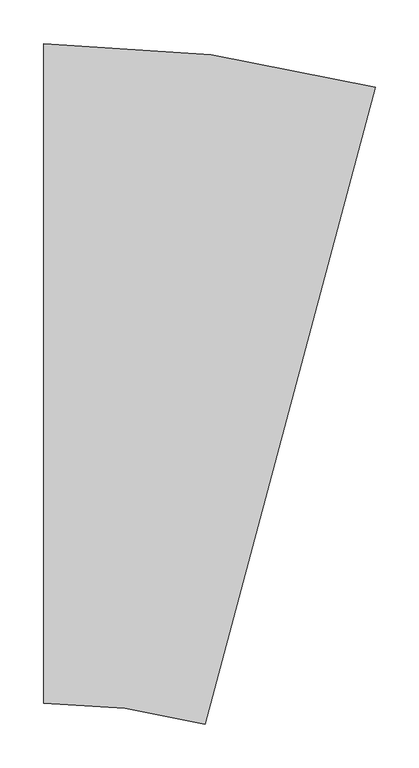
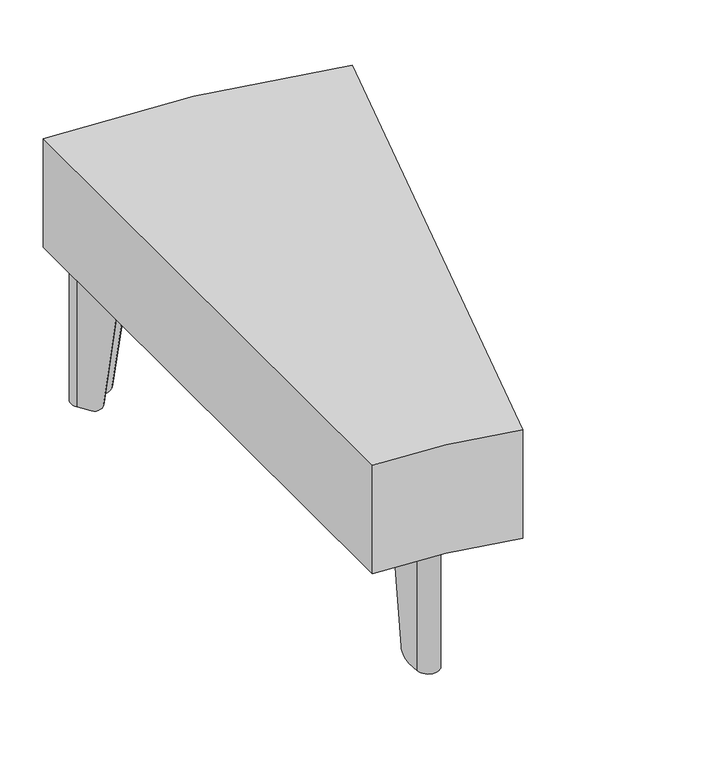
"""IFC4 building model written with IfcOpenShell, lengths in millimetres: furniture geometry, Stance_HC-Flora-Table_Curve_15 : FATR15WC-P."""

from ifc_helpers import new_model, si_unit, point, frame, frame_2d, origin, origin_with_axes, place, context, project, spatial, polyline, circle_curve, ellipse_curve, trimmed, segment, composite_curve, outline, extrude, source, transform, mapped, element, save
from ifc_brep_helpers import plane_surface, cylinder_surface, revolved_surface, advanced_brep


def furniture_a7e0806c(model_context):
    return source(origin(), model_context, "Body", "SolidModel", [
        extrude(outline(composite_curve([segment(polyline([(116.3923367, -698.9210214), (111.5082099, -714.4115913)]), True, "CONTINUOUS"), segment(trimmed(circle_curve(frame_2d((100.4500496, -710.9249889)), 11.5947965), [point((111.5082099, -714.4115913))], [point((88.8662878, -711.4307257))], False, "CARTESIAN"), True, "CONTINUOUS"), segment(polyline([(88.8662878, -711.4307257), (88.1578381, -695.2038792), (116.3923367, -698.9210214)]), True, "CONTINUOUS")], self_intersect=False)), frame((0.0, 0.0, 3.175), z_axis=(0.0, 0.0, 1.0), x_axis=(1.0, 0.0, 0.0)), (0.0, 0.0, 1.0), 3.3792927),
        advanced_brep(
        [(83.2274117, -655.966058, 193.6877233), (85.6550709, -711.5709246, 193.6877233), (114.5737211, -715.3781371, 193.6877233), (131.3102573, -662.2962879, 193.6877233), (128.2447461, -661.3297421, 193.6877233), (111.5082099, -714.4115913, 193.6877233), (88.8662878, -711.4307257, 193.6877233), (86.4386286, -655.8258591, 193.6877233), (83.2274117, -655.966058, 189.1419595), (88.8662878, -711.4307257, 3.1876992), (88.0966614, -693.8026456, 3.1876992), (87.3987919, -677.8181355, 17.1280233), (111.5082099, -714.4115913, 3.1876992), (121.6252806, -682.3241382, 17.1280233), (116.8140947, -697.5833675, 3.1876992), (131.3102573, -662.2962879, 189.1419334), (114.5737211, -715.3781371, 3.1876992), (120.0500322, -698.0093867, 3.1876992), (124.861218, -682.7501575, 17.1280233), (85.6550709, -711.5709246, 3.1876992), (84.1628544, -677.3921163, 17.1280233), (84.860724, -693.3766264, 3.1876992)],
        [
            (0, 1),
            (1, 2, circle_curve(frame((100.4500496, -710.9249889, 193.6877233), z_axis=(0.0, 0.0, 1.0), x_axis=(0.7933533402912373, 0.608761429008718, 0.0)), 14.8090724)),
            (2, 3),
            (3, 4),
            (4, 5),
            (5, 6, circle_curve(frame((100.4500496, -710.9249889, 193.6877233), z_axis=(0.0, 0.0, -1.0), x_axis=(0.7933533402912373, 0.608761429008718, 0.0)), 11.5947965)),
            (6, 7),
            (7, 0),
            (7, 8),
            (8, 0),
            (6, 9),
            (9, 10),
            (10, 11, ellipse_curve(frame((88.0966614, -693.8026456, 19.0626992), z_axis=(0.9990483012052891, 0.04361756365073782, 0.0), x_axis=(-0.04361756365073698, 0.999048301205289, 0.0)), 16.1198923, 15.875)),
            (11, 7),
            (5, 12),
            (12, 9, circle_curve(frame((100.4500496, -710.9249889, 3.1876992), z_axis=(0.0, 0.0, -1.0), x_axis=(0.7933533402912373, 0.608761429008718, 0.0)), 11.5947965)),
            (4, 13),
            (13, 14, ellipse_curve(frame((116.8140947, -697.5833675, 19.0626992), z_axis=(-0.9537174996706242, 0.3007040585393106, 0.0), x_axis=(-0.3007040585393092, -0.9537174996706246, 0.0)), 16.1198923, 15.875)),
            (14, 12),
            (3, 15),
            (15, 4),
            (2, 16),
            (16, 17),
            (17, 18, ellipse_curve(frame((120.0500322, -698.0093867, 19.0626992), z_axis=(0.9537174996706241, -0.3007040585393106, 0.0), x_axis=(-0.3007040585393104, -0.9537174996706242, 0.0)), 16.1198923, 15.875)),
            (18, 15),
            (1, 19),
            (19, 16, circle_curve(frame((100.4500496, -710.9249889, 3.1876992), z_axis=(0.0, 0.0, 1.0), x_axis=(0.7933533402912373, 0.608761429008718, 0.0)), 14.8090724)),
            (8, 20),
            (20, 21, ellipse_curve(frame((84.860724, -693.3766264, 19.0626992), z_axis=(-0.9990483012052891, -0.04361756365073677, 0.0), x_axis=(-0.0436175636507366, 0.999048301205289, 0.0)), 16.1198923, 15.875)),
            (21, 19),
            (18, 13),
            (11, 20),
            (21, 10),
            (14, 17),
        ],
        [
            plane_surface(frame((86.4386286, -655.8258591, 193.6877233), z_axis=(0.0, 0.0, 1.0), x_axis=(0.9990483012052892, 0.04361756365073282, 0.0))),
            plane_surface(frame((83.2274117, -655.966058, 193.6877233), z_axis=(-0.04361756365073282, 0.9990483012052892, 0.0), x_axis=(0.0, 0.0, -1.0))),
            plane_surface(frame((86.4386286, -655.8258591, 193.6877233), z_axis=(0.9990483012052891, 0.04361756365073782, 0.0), x_axis=(0.0, 0.0, -1.0))),
            revolved_surface(polyline([(109.64882013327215, -703.8665240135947, 3.1876992), (109.64882013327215, -703.8665240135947, 193.6877233)]), (100.4500496, -710.9249889, 0.0), (0.0, 0.0, -1.0)),
            plane_surface(frame((111.5082099, -714.4115913, 193.6877233), z_axis=(-0.953717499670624, 0.30070405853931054, 0.0), x_axis=(0.0, 0.0, -1.0))),
            plane_surface(frame((128.2447461, -661.3297421, 193.6877233), z_axis=(0.3007040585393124, 0.9537174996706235, 0.0), x_axis=(0.0, 0.0, -1.0))),
            plane_surface(frame((131.3102573, -662.2962879, 193.6877233), z_axis=(0.9537174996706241, -0.3007040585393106, 0.0), x_axis=(0.0, 0.0, -1.0))),
            cylinder_surface(frame((100.4500496, -710.9249889, 0.0), z_axis=(0.0, 0.0, 1.0), x_axis=(0.7933533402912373, 0.608761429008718, 0.0)), 14.8090724),
            plane_surface(frame((85.6550709, -711.5709246, 193.6877233), z_axis=(-0.9990483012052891, -0.04361756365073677, 0.0), x_axis=(0.0, 0.0, -1.0))),
            plane_surface(frame((133.1109853, -683.83626, 17.1280233), z_axis=(0.1295532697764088, 0.9840547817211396, -0.1218693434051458), x_axis=(-0.9914448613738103, 0.1305261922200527, 0.0))),
            plane_surface(frame((127.1135285, -729.3914673, 3.1876992), z_axis=(0.0, 0.0, -1.0), x_axis=(-0.9914448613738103, 0.1305261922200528, 0.0))),
            cylinder_surface(frame((73.8681747, -691.9294298, 19.0626992), z_axis=(-0.9914448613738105, 0.13052619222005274, 0.0), x_axis=(0.13052619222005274, 0.9914448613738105, 0.0)), 15.875),
        ],
        [
            (0, [[1, 2, 3, 4, 5, 6, 7, 8]]),
            (1, [[9, 10, -8]]),
            (2, [[11, 12, 13, 14, -7]]),
            (3, [[15, 16, -11, -6]]),
            (4, [[17, 18, 19, -15, -5]]),
            (5, [[20, 21, -4]]),
            (6, [[22, 23, 24, 25, -20, -3]]),
            (7, [[26, 27, -22, -2]]),
            (8, [[-10, 28, 29, 30, -26, -1]]),
            (9, [[-17, -21, -25, 31]]),
            (9, [[-28, -9, -14, 32]]),
            (10, [[-23, -27, -30, 33, -12, -16, -19, 34]]),
            (11, [[-13, -33, -29, -32]]),
            (11, [[-24, -34, -18, -31]]),
        ],
    ),
        extrude(outline(composite_curve([segment(trimmed(circle_curve(frame_2d((100.8304881, -708.0806529)), 11.1125), [point((92.0143491, -714.8455143))], [point((109.6466271, -701.3157915))], False, "CARTESIAN"), True, "CONTINUOUS"), segment(trimmed(circle_curve(frame_2d((100.8304881, -708.0806529)), 11.1125), [point((109.6466271, -701.3157915))], [point((92.0143491, -714.8455143))], False, "CARTESIAN"), True, "CONTINUOUS")], self_intersect=False)), origin_with_axes(), (0.0, 0.0, 1.0), 3.175),
        extrude(outline(composite_curve([segment(trimmed(circle_curve(frame_2d((100.2065534, -712.7745305)), 15.8749964), [point((110.7256441, -724.6642))], [point((86.9686192, -721.5365285))], False, "CARTESIAN"), True, "CONTINUOUS"), segment(polyline([(86.9686192, -721.5365285), (31.606172, -637.8929995), (37.1163128, -596.0393538), (119.5802299, -565.6168022), (191.3603387, -616.3459599), (185.8502015, -658.1996074), (110.7256441, -724.6642)]), True, "CONTINUOUS")], self_intersect=False)), frame((0.0, 0.0, 193.6877233), z_axis=(0.0, 0.0, 1.0), x_axis=(1.0, 0.0, 0.0)), (0.0, 0.0, 1.0), 4.7751809),
        extrude(outline(composite_curve([segment(polyline([(0.0, -757.2502172), (0.0, 0.0)]), True, "CONTINUOUS"), segment(trimmed(circle_curve(frame_2d((0.0, -1473.9188659)), 1473.9188659), [point((0.0, 0.0))], [point((381.4782734, -50.2225675))], False, "CARTESIAN"), True, "CONTINUOUS"), segment(polyline([(381.4782734, -50.2225675), (185.4874953, -781.6701093)]), True, "CONTINUOUS"), segment(trimmed(circle_curve(frame_2d((0.0, -1473.9188659)), 716.6686487), [point((185.4874953, -781.6701093))], [point((0.0, -757.2502172))], True, "CARTESIAN"), True, "CONTINUOUS")], self_intersect=False)), frame((0.0, 0.0, 196.85), z_axis=(0.0, 0.0, 1.0), x_axis=(1.0, 0.0, 0.0)), (0.0, 0.0, 1.0), 152.399991),
        extrude(outline(composite_curve([segment(polyline([(319.4007878, -83.8965149), (334.6635511, -78.3412918)]), True, "CONTINUOUS"), segment(trimmed(circle_curve(frame_2d((338.629225, -89.2368293)), 11.5947965), [point((334.6635511, -78.3412918))], [point((346.0822003, -98.1189723))], False, "CARTESIAN"), True, "CONTINUOUS"), segment(polyline([(346.0822003, -98.1189723), (333.6398543, -108.5593015), (319.4007878, -83.8965149)]), True, "CONTINUOUS")], self_intersect=False)), frame((0.0, 0.0, 3.175), z_axis=(0.0, 0.0, 1.0), x_axis=(1.0, 0.0, 0.0)), (0.0, 0.0, 1.0), 3.3792927),
        advanced_brep(
        [(305.5118512, -136.3573439, 193.6877233), (348.1482925, -100.5812543, 193.6877233), (333.5641985, -75.3208624, 193.6877233), (281.2629784, -94.3570579, 193.6877233), (282.3623311, -97.3774872, 193.6877233), (334.6635511, -78.3412918, 193.6877233), (346.0822003, -98.1189723, 193.6877233), (303.4457589, -133.8950619, 193.6877233), (305.5118512, -136.3573439, 189.1419595), (346.0822003, -98.1189723, 3.1876992), (332.5654229, -109.4608531, 3.1876992), (320.3088945, -119.7452635, 17.1280233), (334.6635511, -78.3412918, 3.1876992), (303.0479807, -89.8484837, 17.1280233), (318.0828055, -84.3762239, 3.1876992), (281.2629784, -94.3570579, 189.1419334), (333.5641985, -75.3208624, 3.1876992), (316.4508754, -81.549638, 3.1876992), (301.4160505, -87.0218978, 17.1280233), (348.1482925, -100.5812543, 3.1876992), (321.9408246, -122.5718494, 17.1280233), (334.1973531, -112.287439, 3.1876992)],
        [
            (0, 1),
            (1, 2, circle_curve(frame((338.629225, -89.2368293, 193.6877233), z_axis=(0.0, 0.0, 1.0), x_axis=(-0.9659258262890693, 0.25881904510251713, 0.0)), 14.8090724)),
            (2, 3),
            (3, 4),
            (4, 5),
            (5, 6, circle_curve(frame((338.629225, -89.2368293, 193.6877233), z_axis=(0.0, 0.0, -1.0), x_axis=(-0.9659258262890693, 0.25881904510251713, 0.0)), 11.5947965)),
            (6, 7),
            (7, 0),
            (7, 8),
            (8, 0),
            (6, 9),
            (9, 10),
            (10, 11, ellipse_curve(frame((332.5654229, -109.4608531, 19.0626992), z_axis=(-0.6427862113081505, 0.7660456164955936, 0.0), x_axis=(-0.7660456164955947, -0.642786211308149, 0.0)), 16.1198923, 15.875)),
            (11, 7),
            (5, 12),
            (12, 9, circle_curve(frame((338.629225, -89.2368293, 3.1876992), z_axis=(0.0, 0.0, -1.0), x_axis=(-0.9659258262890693, 0.25881904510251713, 0.0)), 11.5947965)),
            (4, 13),
            (13, 14, ellipse_curve(frame((318.0828055, -84.3762239, 19.0626992), z_axis=(0.34202185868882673, -0.939691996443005, 0.0), x_axis=(0.9396919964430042, 0.3420218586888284, 0.0)), 16.1198923, 15.875)),
            (14, 12),
            (3, 15),
            (15, 4),
            (2, 16),
            (16, 17),
            (17, 18, ellipse_curve(frame((316.4508754, -81.549638, 19.0626992), z_axis=(-0.3420218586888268, 0.9396919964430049, 0.0), x_axis=(0.9396919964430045, 0.34202185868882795, 0.0)), 16.1198923, 15.875)),
            (18, 15),
            (1, 19),
            (19, 16, circle_curve(frame((338.629225, -89.2368293, 3.1876992), z_axis=(0.0, 0.0, 1.0), x_axis=(-0.9659258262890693, 0.25881904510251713, 0.0)), 14.8090724)),
            (8, 20),
            (20, 21, ellipse_curve(frame((334.1973531, -112.287439, 19.0626992), z_axis=(0.6427862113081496, -0.7660456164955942, 0.0), x_axis=(-0.766045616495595, -0.6427862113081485, 0.0)), 16.1198923, 15.875)),
            (21, 19),
            (18, 13),
            (11, 20),
            (21, 10),
            (14, 17),
        ],
        [
            plane_surface(frame((303.4457589, -133.8950619, 193.6877233), z_axis=(0.0, 0.0, 1.0000000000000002), x_axis=(-0.6427862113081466, 0.7660456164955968, 0.0))),
            plane_surface(frame((305.5118512, -136.3573439, 193.6877233), z_axis=(-0.7660456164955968, -0.6427862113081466, 0.0), x_axis=(0.0, 0.0, -1.0))),
            plane_surface(frame((303.4457589, -133.8950619, 193.6877233), z_axis=(-0.6427862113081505, 0.7660456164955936, 0.0), x_axis=(0.0, 0.0, -1.0))),
            revolved_surface(polyline([(327.4295116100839, -86.23587514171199, 3.1876992), (327.4295116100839, -86.23587514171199, 193.6877233)]), (338.629225, -89.2368293, 0.0), (0.0, 0.0, -1.0)),
            plane_surface(frame((334.6635511, -78.3412918, 193.6877233), z_axis=(0.3420218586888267, -0.9396919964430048, 0.0), x_axis=(0.0, 0.0, -1.0))),
            plane_surface(frame((282.3623311, -97.3774872, 193.6877233), z_axis=(-0.9396919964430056, -0.342021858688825, 0.0), x_axis=(0.0, 0.0, -1.0))),
            plane_surface(frame((281.2629784, -94.3570579, 193.6877233), z_axis=(-0.3420218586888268, 0.9396919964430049, 0.0), x_axis=(0.0, 0.0, -1.0))),
            cylinder_surface(frame((338.629225, -89.2368293, 0.0), z_axis=(0.0, 0.0, 1.0), x_axis=(-0.9659258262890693, 0.25881904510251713, 0.0)), 14.8090724),
            plane_surface(frame((348.1482925, -100.5812543, 193.6877233), z_axis=(0.6427862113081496, -0.7660456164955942, 0.0), x_axis=(0.0, 0.0, -1.0))),
            plane_surface(frame((297.2555735, -79.8157401, 17.1280233), z_axis=(-0.8595701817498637, -0.49627307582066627, -0.12186934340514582), x_axis=(0.5000000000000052, -0.8660254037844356, 0.0))),
            plane_surface(frame((337.0479697, -56.8415895, 3.1876992), z_axis=(0.0, 0.0, -1.0), x_axis=(0.5000000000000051, -0.8660254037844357, 0.0))),
            cylinder_surface(frame((339.7410549, -121.8894122, 19.0626992), z_axis=(0.5000000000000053, -0.8660254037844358, 0.0), x_axis=(-0.8660254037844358, -0.5000000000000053, 0.0)), 15.875),
        ],
        [
            (0, [[1, 2, 3, 4, 5, 6, 7, 8]]),
            (1, [[9, 10, -8]]),
            (2, [[11, 12, 13, 14, -7]]),
            (3, [[15, 16, -11, -6]]),
            (4, [[17, 18, 19, -15, -5]]),
            (5, [[20, 21, -4]]),
            (6, [[22, 23, 24, 25, -20, -3]]),
            (7, [[26, 27, -22, -2]]),
            (8, [[-10, 28, 29, 30, -26, -1]]),
            (9, [[-17, -21, -25, 31]]),
            (9, [[-28, -9, -14, 32]]),
            (10, [[-23, -27, -30, 33, -12, -16, -19, 34]]),
            (11, [[-13, -33, -29, -32]]),
            (11, [[-24, -34, -18, -31]]),
        ],
    ),
        extrude(outline(composite_curve([segment(trimmed(circle_curve(frame_2d((336.1410652, -90.6665291)), 11.1125), [point((346.8749159, -93.5426557))], [point((325.4072145, -87.7904025))], False, "CARTESIAN"), True, "CONTINUOUS"), segment(trimmed(circle_curve(frame_2d((336.1410652, -90.6665291)), 11.1125), [point((325.4072145, -87.7904025))], [point((346.8749159, -93.5426557))], False, "CARTESIAN"), True, "CONTINUOUS")], self_intersect=False)), origin_with_axes(), (0.0, 0.0, 1.0), 3.175),
        extrude(outline(composite_curve([segment(trimmed(circle_curve(frame_2d((340.2447961, -88.3040782)), 15.8749964), [point((343.2738883, -72.7207502))], [point((355.2549001, -93.4724711))], False, "CARTESIAN"), True, "CONTINUOUS"), segment(polyline([(355.2549001, -93.4724711), (322.5985495, -188.3134077), (286.0394587, -209.4208042), (211.7027737, -162.5178562), (208.2519588, -74.6889125), (244.8110489, -53.581512), (343.2738883, -72.7207502)]), True, "CONTINUOUS")], self_intersect=False)), frame((0.0, 0.0, 193.6877233), z_axis=(0.0, 0.0, 1.0), x_axis=(1.0, 0.0, 0.0)), (0.0, 0.0, 1.0), 4.7751809),
        extrude(outline(composite_curve([segment(polyline([(43.3220749, -48.593371), (23.184994, -68.730452), (13.8687667, -55.4255523)]), True, "CONTINUOUS"), segment(trimmed(circle_curve(frame_2d((23.3666558, -48.7750329)), 11.5947965), [point((13.8687667, -55.4255523))], [point((30.0171752, -39.2771437))], False, "CARTESIAN"), True, "CONTINUOUS"), segment(polyline([(30.0171752, -39.2771437), (43.3220749, -48.593371)]), True, "CONTINUOUS")], self_intersect=False)), frame((0.0, 0.0, 3.175), z_axis=(0.0, 0.0, 1.0), x_axis=(1.0, 0.0, 0.0)), (0.0, 0.0, 1.0), 3.3792927),
        advanced_brep(
        [(43.1598958, -102.8613619, 193.6877233), (45.7928732, -101.0177242, 193.6877233), (13.8687667, -55.4255523, 193.6877233), (30.0171752, -39.2771437, 193.6877233), (75.6093444, -71.2012484, 193.6877233), (77.4529822, -68.568271, 193.6877233), (31.8608129, -36.6441664, 193.6877233), (11.2357893, -57.26919, 193.6877233), (43.1598958, -102.8613619, 189.1419595), (33.1665723, -82.9855678, 17.1280233), (23.9894762, -69.8793673, 3.1876992), (13.8687667, -55.4255523, 3.1876992), (30.0171752, -39.2771437, 3.1876992), (44.4709902, -49.3978533, 3.1876992), (57.5771908, -58.5749494, 17.1280233), (77.4529822, -68.568271, 189.1419334), (59.8850885, -56.2670517, 17.1280233), (46.7788879, -47.0899556, 3.1876992), (31.8608129, -36.6441664, 3.1876992), (11.2357893, -57.26919, 3.1876992), (21.6815785, -72.187265, 3.1876992), (30.8586746, -85.2934656, 17.1280233)],
        [
            (0, 1),
            (1, 2),
            (2, 3, circle_curve(frame((23.3666558, -48.7750329, 193.6877233), z_axis=(0.0, 0.0, -1.0), x_axis=(1.0, 0.0, 0.0)), 11.5947965)),
            (3, 4),
            (4, 5),
            (5, 6),
            (6, 7, circle_curve(frame((23.3666558, -48.7750329, 193.6877233), z_axis=(0.0, 0.0, 1.0), x_axis=(1.0, 0.0, 0.0)), 14.8090724)),
            (7, 0),
            (0, 8),
            (8, 1),
            (1, 9),
            (9, 10, ellipse_curve(frame((23.9894762, -69.8793673, 19.0626992), z_axis=(0.8191509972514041, 0.5735779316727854, 0.0), x_axis=(0.5735779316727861, -0.8191509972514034, 0.0)), 16.1198923, 15.875)),
            (10, 11),
            (11, 2),
            (11, 12, circle_curve(frame((23.3666558, -48.7750329, 3.1876992), z_axis=(0.0, 0.0, -1.0), x_axis=(1.0, 0.0, 0.0)), 11.5947965)),
            (12, 3),
            (12, 13),
            (13, 14, ellipse_curve(frame((44.4709902, -49.3978533, 19.0626992), z_axis=(-0.5735779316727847, -0.8191509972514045, 0.0), x_axis=(-0.8191509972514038, 0.5735779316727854, 0.0)), 16.1198923, 15.875)),
            (14, 4),
            (4, 15),
            (15, 5),
            (15, 16),
            (16, 17, ellipse_curve(frame((46.7788879, -47.0899556, 19.0626992), z_axis=(0.5735779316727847, 0.8191509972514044, 0.0), x_axis=(-0.8191509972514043, 0.573577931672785, 0.0)), 16.1198923, 15.875)),
            (17, 18),
            (18, 6),
            (18, 19, circle_curve(frame((23.3666558, -48.7750329, 3.1876992), z_axis=(0.0, 0.0, 1.0), x_axis=(1.0, 0.0, 0.0)), 14.8090724)),
            (19, 7),
            (19, 20),
            (20, 21, ellipse_curve(frame((21.6815785, -72.187265, 19.0626992), z_axis=(-0.8191509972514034, -0.5735779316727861, 0.0), x_axis=(0.5735779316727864, -0.8191509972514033, 0.0)), 16.1198923, 15.875)),
            (21, 8),
            (14, 16),
            (21, 9),
            (17, 13),
            (10, 20),
        ],
        [
            plane_surface(frame((45.7928732, -101.0177242, 193.6877233), z_axis=(0.0, 0.0, 1.0000000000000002), x_axis=(0.8191509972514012, 0.5735779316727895, 0.0))),
            plane_surface(frame((43.1598958, -102.8613619, 193.6877233), z_axis=(0.5735779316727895, -0.8191509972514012, 0.0), x_axis=(0.0, 0.0, -1.0))),
            plane_surface(frame((45.7928732, -101.0177242, 193.6877233), z_axis=(0.8191509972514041, 0.5735779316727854, 0.0), x_axis=(0.0, 0.0, -1.0))),
            revolved_surface(polyline([(34.9614523, -48.7750329, 3.1876992), (34.9614523, -48.7750329, 193.6877233)]), (23.3666558, -48.7750329, 0.0), (0.0, 0.0, -1.0)),
            plane_surface(frame((30.0171752, -39.2771437, 193.6877233), z_axis=(-0.5735779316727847, -0.8191509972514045, 0.0), x_axis=(0.0, 0.0, -1.0))),
            plane_surface(frame((75.6093444, -71.2012484, 193.6877233), z_axis=(0.8191509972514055, -0.5735779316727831, 0.0), x_axis=(0.0, 0.0, -1.0))),
            plane_surface(frame((77.4529822, -68.568271, 193.6877233), z_axis=(0.5735779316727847, 0.8191509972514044, 0.0), x_axis=(0.0, 0.0, -1.0))),
            cylinder_surface(frame((23.3666558, -48.7750329, 0.0), z_axis=(0.0, 0.0, 1.0), x_axis=(1.0, 0.0, 0.0)), 14.8090724),
            plane_surface(frame((11.2357893, -57.26919, 193.6877233), z_axis=(-0.8191509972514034, -0.5735779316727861, 0.0), x_axis=(0.0, 0.0, -1.0))),
            plane_surface(frame((65.7688916, -50.3832485, 17.1280233), z_axis=(0.7018361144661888, -0.7018361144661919, -0.12186934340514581), x_axis=(-0.7071067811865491, -0.707106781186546, 0.0))),
            plane_surface(frame((33.2785361, -17.8928931, 3.1876992), z_axis=(0.0, 0.0, -1.0), x_axis=(-0.707106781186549, -0.707106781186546, 0.0))),
            cylinder_surface(frame((13.8416002, -80.0272433, 19.0626992), z_axis=(-0.7071067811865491, -0.707106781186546, 0.0), x_axis=(0.707106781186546, -0.7071067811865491, 0.0)), 15.875),
        ],
        [
            (0, [[1, 2, 3, 4, 5, 6, 7, 8]]),
            (1, [[-1, 9, 10]]),
            (2, [[-2, 11, 12, 13, 14]]),
            (3, [[-3, -14, 15, 16]]),
            (4, [[-4, -16, 17, 18, 19]]),
            (5, [[-5, 20, 21]]),
            (6, [[-6, -21, 22, 23, 24, 25]]),
            (7, [[-7, -25, 26, 27]]),
            (8, [[-8, -27, 28, 29, 30, -9]]),
            (9, [[31, -22, -20, -19]]),
            (9, [[32, -11, -10, -30]]),
            (10, [[33, -17, -15, -13, 34, -28, -26, -24]]),
            (11, [[-31, -18, -33, -23]]),
            (11, [[-32, -29, -34, -12]]),
        ],
    ),
        extrude(outline(composite_curve([segment(trimmed(circle_curve(frame_2d((25.4, -50.8)), 11.1125), [point((14.2875, -50.8))], [point((36.5125, -50.8))], False, "CARTESIAN"), True, "CONTINUOUS"), segment(trimmed(circle_curve(frame_2d((25.4, -50.8)), 11.1125), [point((36.5125, -50.8))], [point((14.2875, -50.8))], False, "CARTESIAN"), True, "CONTINUOUS")], self_intersect=False)), origin_with_axes(), (0.0, 0.0, 1.0), 3.175),
        extrude(outline(composite_curve([segment(polyline([(23.1549313, -31.6195983), (123.2163301, -38.6165718), (153.0667022, -68.4669439), (127.0016677, -152.4100523), (43.0585676, -178.4750713), (13.2081938, -148.6247029), (6.211222, -48.5633073)]), True, "CONTINUOUS"), segment(trimmed(circle_curve(frame_2d((22.0475477, -47.4559239)), 15.8749964), [point((6.211222, -48.5633073))], [point((23.1549313, -31.6195983))], False, "CARTESIAN"), True, "CONTINUOUS")], self_intersect=False)), frame((0.0, 0.0, 193.6877233), z_axis=(0.0, 0.0, 1.0), x_axis=(1.0, 0.0, 0.0)), (0.0, 0.0, 1.0), 4.7751809),
    ])


if __name__ == "__main__":
    model = new_model("IFC4")
    model_context = context("Model", 3, world=origin())
    ifc_project = project(units=[si_unit("LENGTHUNIT", "METRE", prefix="MILLI")], contexts=[model_context])
    site = spatial("IfcSite", under=ifc_project)
    building = spatial("IfcBuilding", under=site)
    placement = place(None, origin())
    furniture_shape = furniture_a7e0806c(model_context)
    element("IfcFurniture", 1, ObjectType="Stance_HC-Flora-Table_Curve_15 : FATR15WC-P", at=placement, inside=building, context=model_context, shape_type="MappedRepresentation", body=[
        mapped(furniture_shape, transform((0.0, 0.0, 0.0), x_axis=(1.0, 0.0, 0.0), y_axis=(0.0, 1.0, 0.0), z_axis=(0.0, 0.0, 1.0))),
    ])
    save(model, "model.ifc")
